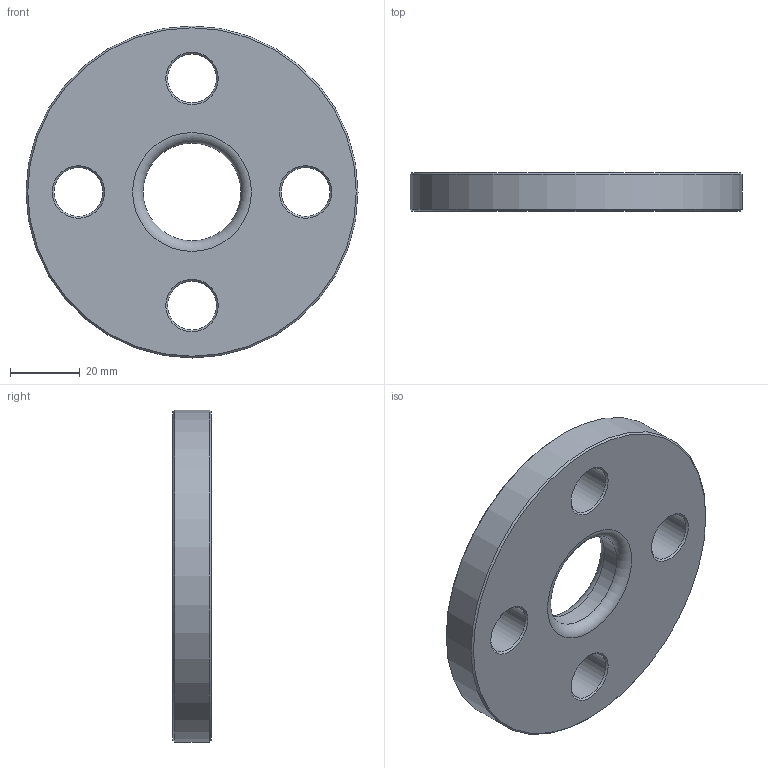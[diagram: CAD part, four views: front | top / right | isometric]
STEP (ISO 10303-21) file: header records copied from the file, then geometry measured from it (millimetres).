
FILE_DESCRIPTION(/* description */ ('Unknown'),/* implementation_level */ '2;1');
FILE_NAME(/* name */ 'FZ020C',/* time_stamp */ '2021-03-15T11:15:33+01:00',/* author */ ('Unknown'),/* organization */ ('Unknown'),/* preprocessor_version */ 'ST-DEVELOPER v16.7',/* originating_system */ 'Solid Edge',/* authorisation */ 'Unknown');
FILE_SCHEMA (('AUTOMOTIVE_DESIGN {1 0 10303 214 3 1 1}'));
Length unit declared in the file: millimetre
Products named in the file (1): FZ020C
Bounding box: 95 x 11 x 95 mm (x, y, z)
Volume: 63948.4 mm3; surface area: 17404.8 mm2
Topology: 1 solids, 1 shells, 20 faces, 54 edges, 36 vertices
Faces by surface type: cone 10, cylinder 6, plane 2, torus 2
Full cylindrical faces by diameter (mm): 14 x4, 28 x1, 95 x1
Entity records: 494 total; most frequent: DIRECTION 90, CARTESIAN_POINT 69, ORIENTED_EDGE 48, EDGE_LOOP 48, FACE_BOUND 48, AXIS2_PLACEMENT_3D 45, EDGE_CURVE 24, VERTEX_POINT 24
